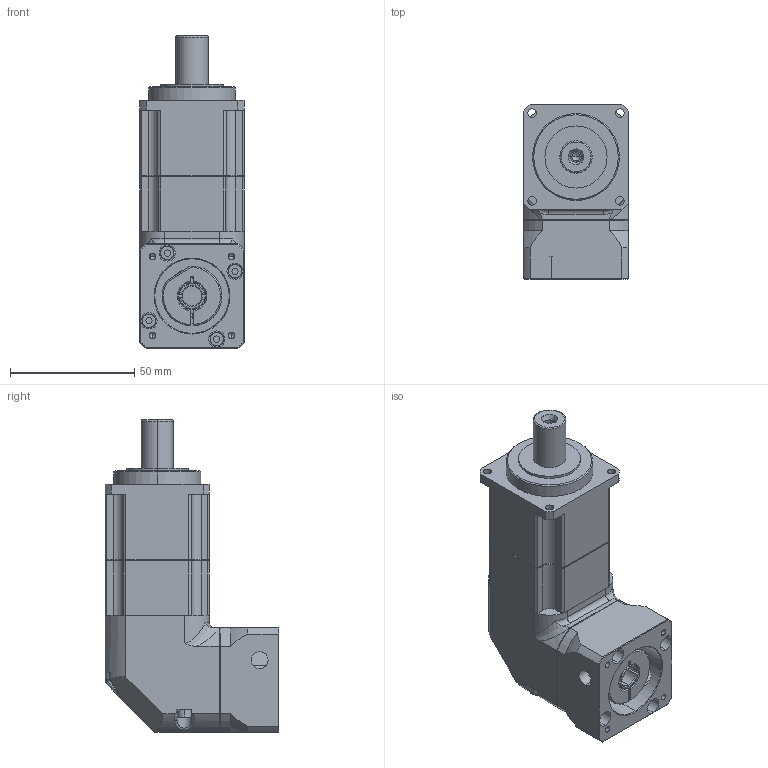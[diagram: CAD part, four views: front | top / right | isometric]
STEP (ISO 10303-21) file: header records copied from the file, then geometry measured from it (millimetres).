
FILE_DESCRIPTION (( 'STEP AP203' ), '1' );
FILE_NAME ('TR042-L2-8-30-45-M3-26-3.5.STEP', '2020-07-09T06:42:20', ( 'Windows 蚚誧' ), ( 'Microsoft' ), 'SwSTEP 2.0', 'SolidWorks 2017', '' );
FILE_SCHEMA (( 'CONFIG_CONTROL_DESIGN' ));
Length unit declared in the file: millimetre
Products named in the file (12): TBR042-坶踡遠; GB／T70．1-2000内六角圆柱头螺钉M3×45; TR042-L2-8-30-45-M3-26-3.5; GB3452．1-92O型橡胶密封圈30×1.5; 郔陔tbr40眊极; GB／T70．1-2000内六角圆柱头螺钉M3×30; TD42-B; TBR042-伞齿入力轴_1-2; CQB-001; GB／T70．1-2000内六角圆柱头螺钉M3×20; TBR042-蟀諉啣; 蚐猾 TC 15x24x5_TC-34.9-55-7
Assembly tree (16 placements, depth 2):
  TR042-L2-8-30-45-M3-26-3.5
    TD42-B
    TBR042-伞齿入力轴_1-2
    GB3452．1-92O型橡胶密封圈30×1.5
    TBR042-坶踡遠
    TBR042-蟀諉啣
    蚐猾 TC 15x24x5_TC-34.9-55-7
    GB／T70．1-2000内六角圆柱头螺钉M3×30  x2
    GB／T70．1-2000内六角圆柱头螺钉M3×45  x2
    GB／T70．1-2000内六角圆柱头螺钉M3×20  x4
    郔陔tbr40眊极
    CQB-001
Bounding box: 42 x 70 x 125.8 mm (x, y, z)
Volume: 244382.2 mm3; surface area: 68899.4 mm2
Topology: 17 solids, 17 shells, 668 faces, 1589 edges, 989 vertices
Faces by surface type: cylinder 252, plane 235, cone 116, bspline 62, torus 3
Entity records: 20291 total; most frequent: CARTESIAN_POINT 5638, DIRECTION 2872, ORIENTED_EDGE 2682, EDGE_CURVE 1341, AXIS2_PLACEMENT_3D 1137, VERTEX_POINT 857, EDGE_LOOP 666, LINE 598
